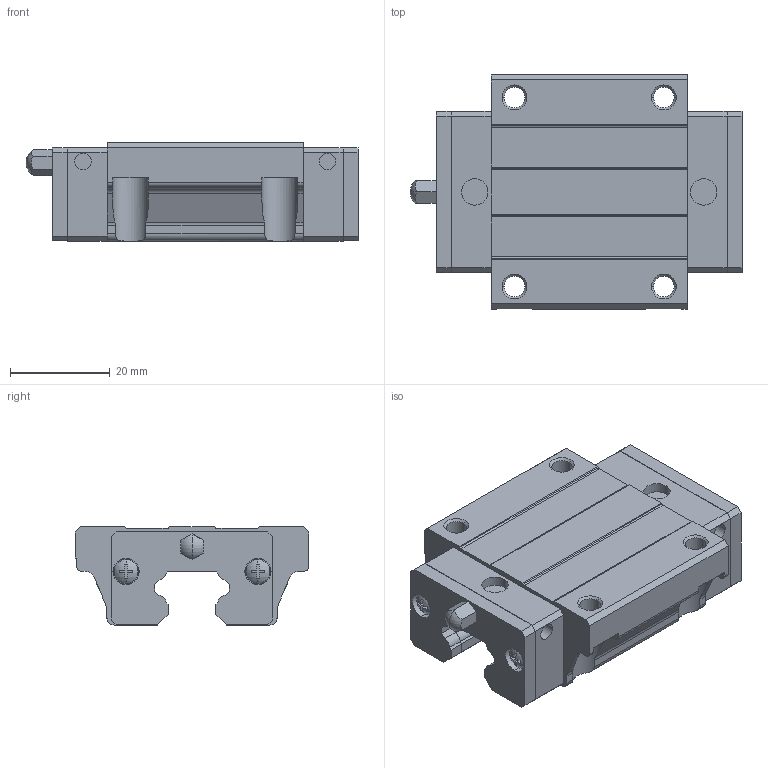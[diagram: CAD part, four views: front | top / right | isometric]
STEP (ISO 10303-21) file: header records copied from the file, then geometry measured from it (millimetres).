
FILE_DESCRIPTION(('starvars output'),'2;1');
FILE_NAME('cv20190610060204000016130.stp','06:02:04 2019/06/10',( 'Thomas Industrial Network Germany GmbH'),( 'Thomas Industrial Network Germany GmbH'),'unknown preprocess','ACIS' ,'unknown authorization');
FILE_SCHEMA(('CONFIG_CONTROL_DESIGN {UNKNOWN IMPLEMENTATION LEVEL}'));
Length unit declared in the file: millimetre
Products named in the file (10): PRODUCT_ID_1; PRODUCT_ID_2; PRODUCT_ID_3; PRODUCT_ID_4; PRODUCT_ID_5; PRODUCT_ID_6; PRODUCT_ID_7; PRODUCT_ID_8; PRODUCT_ID_9; PRODUCT_ID_10
Bounding box: 66.7 x 47 x 19.7 mm (x, y, z)
Volume: 35504.8 mm3; surface area: 15190.9 mm2
Topology: 10 solids, 10 shells, 363 faces, 967 edges, 636 vertices
Faces by surface type: plane 244, cylinder 85, cone 24, sphere 10
Entity records: 11302 total; most frequent: ORIENTED_EDGE 1934, CARTESIAN_POINT 1878, DIRECTION 1584, EDGE_CURVE 967, VECTOR 644, LINE 644, VERTEX_POINT 636, AXIS2_PLACEMENT_3D 470
